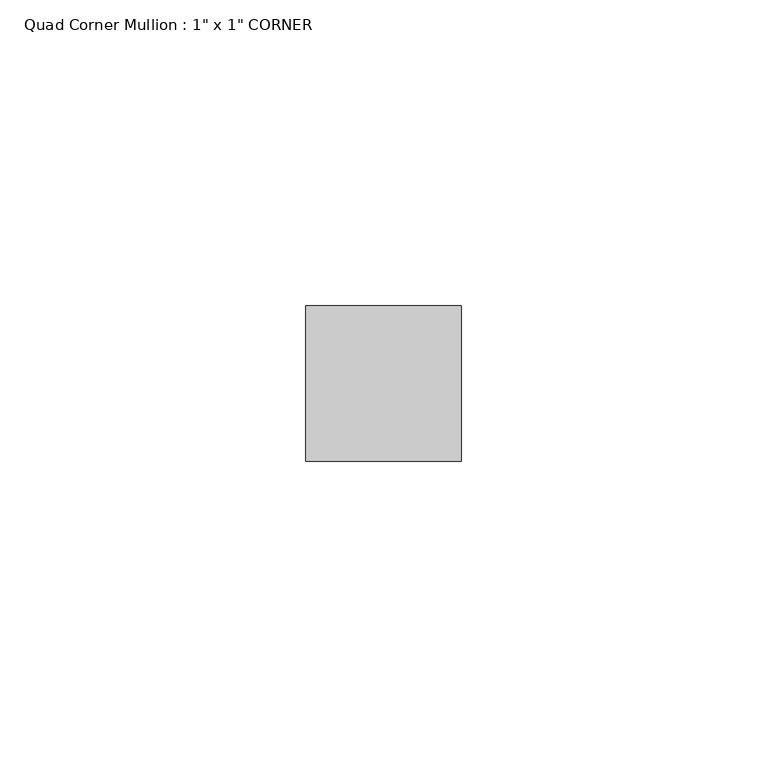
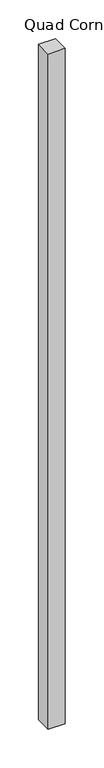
"""IFC4 building model written with IfcOpenShell, lengths in millimetres: member geometry."""

from ifc_helpers import new_model, si_unit, frame, origin, place, context, project, spatial, polyline, outline, extrude, source, transform, mapped, element, save


def member_53e62c31(model_context):
    return source(origin(), model_context, "Body", "SweptSolid", [
        extrude(outline(polyline([(0.0, 25.4), (0.0, 0.0), (-25.4, 0.0), (-25.4, 25.4), (0.0, 25.4)])), frame((0.0, 0.0, -1066.7999994), z_axis=(0.0, 0.0, 1.0), x_axis=(1.0, 0.0, 0.0)), (0.0, 0.0, 1.0), 1066.7999994),
    ])


if __name__ == "__main__":
    model = new_model("IFC4")
    model_context = context("Model", 3, world=origin())
    ifc_project = project(units=[si_unit("LENGTHUNIT", "METRE", prefix="MILLI")], contexts=[model_context])
    site = spatial("IfcSite", under=ifc_project)
    building = spatial("IfcBuilding", under=site)
    placement = place(None, origin())
    member_shape = member_53e62c31(model_context)
    element("IfcMember", 1, ObjectType="Quad Corner Mullion : 1\" x 1\" CORNER", at=placement, inside=building, context=model_context, shape_type="MappedRepresentation", body=[
        mapped(member_shape, transform((0.0, 0.0, 0.0), x_axis=(1.0, 0.0, 0.0), y_axis=(0.0, 1.0, 0.0), z_axis=(0.0, 0.0, 1.0))),
    ])
    save(model, "model.ifc")
